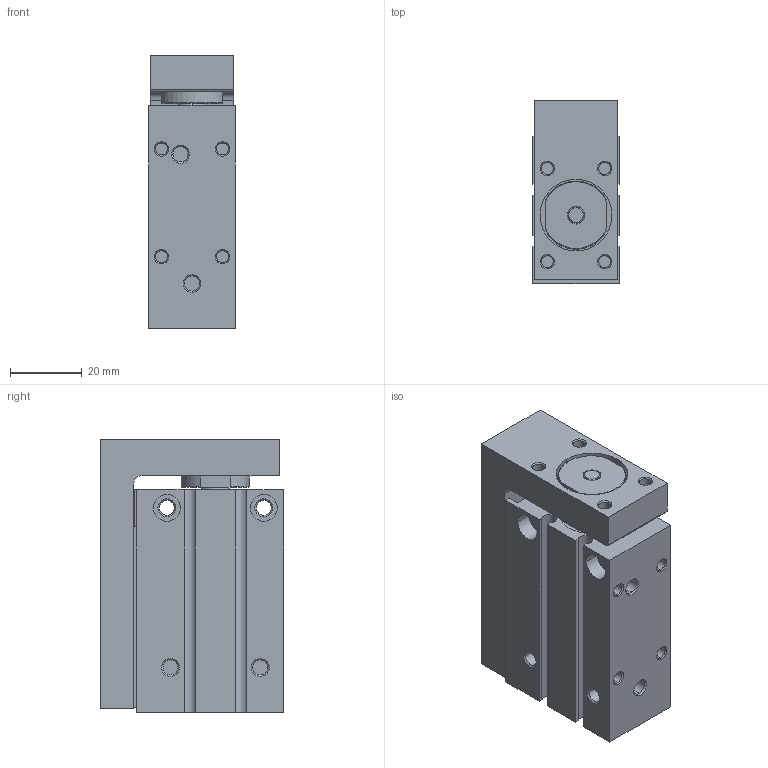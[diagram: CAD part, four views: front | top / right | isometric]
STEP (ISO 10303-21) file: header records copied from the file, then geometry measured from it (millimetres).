
FILE_DESCRIPTION((''),'2;1');
FILE_NAME('0821406514_ASM','2017-08-22T',('vol1hc'),(''),'CREO PARAMETRIC BY PTC INC, 2016260','CREO PARAMETRIC BY PTC INC, 2016260','');
FILE_SCHEMA(('CONFIG_CONTROL_DESIGN'));
Length unit declared in the file: millimetre
Products named in the file (3): 0821406514-A; 0821406514-B; 0821406514_ASM
Assembly tree (2 placements, depth 2):
  0821406514_ASM
    0821406514-A
    0821406514-B
Bounding box: 24 x 51 x 76 mm (x, y, z)
Volume: 76066.2 mm3; surface area: 30541.3 mm2
Topology: 2 solids, 2 shells, 359 faces, 822 edges, 526 vertices
Faces by surface type: plane 171, cylinder 118, cone 70
Entity records: 10264 total; most frequent: DIRECTION 1850, CARTESIAN_POINT 1746, ORIENTED_EDGE 1644, EDGE_CURVE 822, AXIS2_PLACEMENT_3D 672, VERTEX_POINT 526, VECTOR 506, LINE 506
